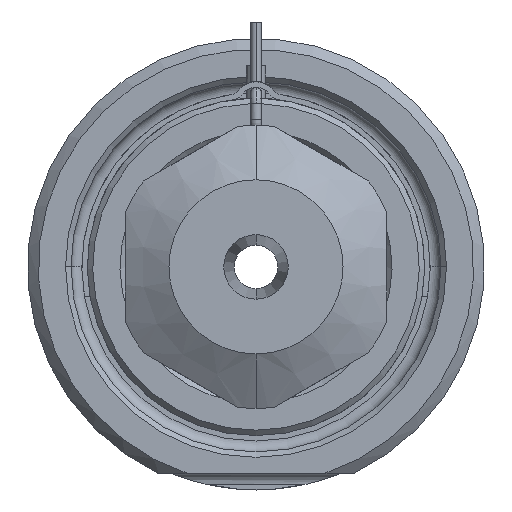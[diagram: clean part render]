
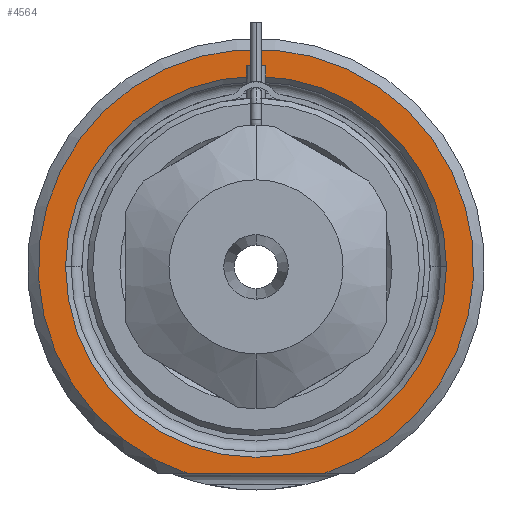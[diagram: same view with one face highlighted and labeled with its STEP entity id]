
A CAD part, front view. The second image highlights one B-rep face of the part: STEP entity #4564.
In plain terms, the highlighted planar face has unit normal (0, -1, 0).
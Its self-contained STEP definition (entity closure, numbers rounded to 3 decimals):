
#1604=CARTESIAN_POINT('',(0.,0.,0.));
#1605=DIRECTION('',(0.,-1.,0.));
#1606=DIRECTION('',(0.312,0.,-0.95));
#1607=AXIS2_PLACEMENT_3D('',#1604,#1605,#1606);
#1628=DIRECTION('',(1.,0.,0.));
#1629=VECTOR('',#1628,12.49);
#1630=CARTESIAN_POINT('',(-6.245,0.,-19.));
#1631=LINE('',#1630,#1629);
#1632=CARTESIAN_POINT('',(0.,0.,0.));
#1633=DIRECTION('',(0.,1.,0.));
#1634=DIRECTION('',(-1.,0.,0.));
#1635=AXIS2_PLACEMENT_3D('',#1632,#1633,#1634);
#1637=CARTESIAN_POINT('',(0.,0.,0.));
#1638=DIRECTION('',(0.,1.,0.));
#1639=DIRECTION('',(1.,0.,0.));
#1640=AXIS2_PLACEMENT_3D('',#1637,#1638,#1639);
#2475=CARTESIAN_POINT('',(-17.5,0.,0.));
#2476=CARTESIAN_POINT('',(17.5,0.,0.));
#2477=VERTEX_POINT('',#2475);
#2478=VERTEX_POINT('',#2476);
#2533=CARTESIAN_POINT('',(-6.245,0.,-19.));
#2534=CARTESIAN_POINT('',(6.245,0.,-19.));
#2535=VERTEX_POINT('',#2533);
#2536=VERTEX_POINT('',#2534);
#4549=CARTESIAN_POINT('',(0.,0.,0.));
#4550=DIRECTION('',(0.,-1.,0.));
#4551=DIRECTION('',(1.,0.,0.));
#4552=AXIS2_PLACEMENT_3D('',#4549,#4550,#4551);
#4553=PLANE('',#4552);
#4554=ORIENTED_EDGE('',*,*,#4481,.F.);
#4555=ORIENTED_EDGE('',*,*,#4541,.F.);
#4556=EDGE_LOOP('',(#4554,#4555));
#4557=FACE_OUTER_BOUND('',#4556,.F.);
#4559=ORIENTED_EDGE('',*,*,#4558,.F.);
#4561=ORIENTED_EDGE('',*,*,#4560,.F.);
#4562=EDGE_LOOP('',(#4559,#4561));
#4563=FACE_BOUND('',#4562,.F.);
#4564=ADVANCED_FACE('',(#4557,#4563),#4553,.T.);
#1608=CIRCLE('',#1607,20.);
#1636=CIRCLE('',#1635,17.5);
#1641=CIRCLE('',#1640,17.5);
#4481=EDGE_CURVE('',#2535,#2536,#1631,.T.);
#4541=EDGE_CURVE('',#2536,#2535,#1608,.T.);
#4558=EDGE_CURVE('',#2477,#2478,#1636,.T.);
#4560=EDGE_CURVE('',#2478,#2477,#1641,.T.);
